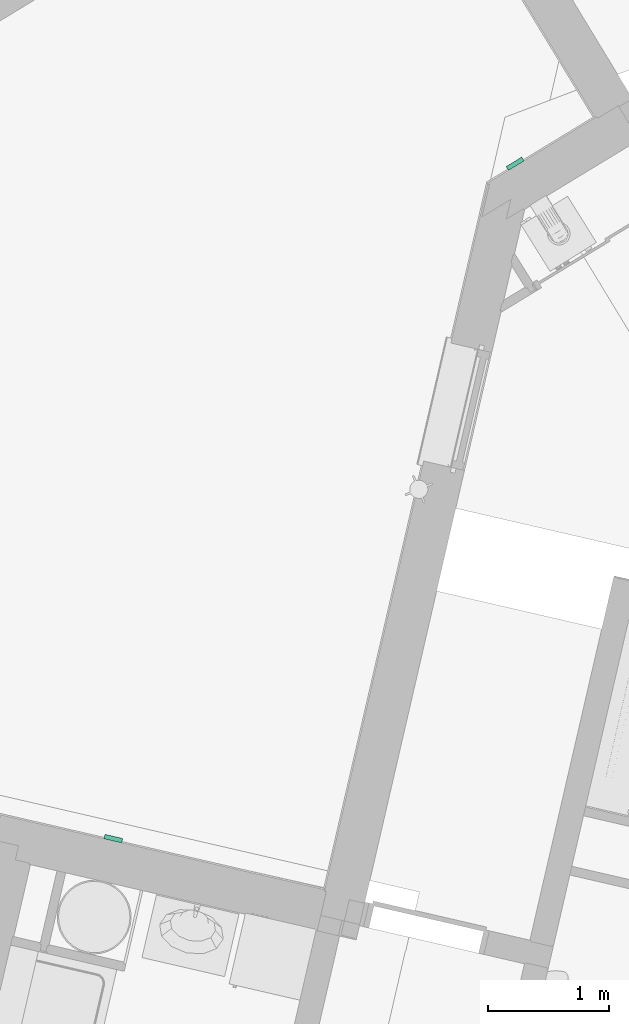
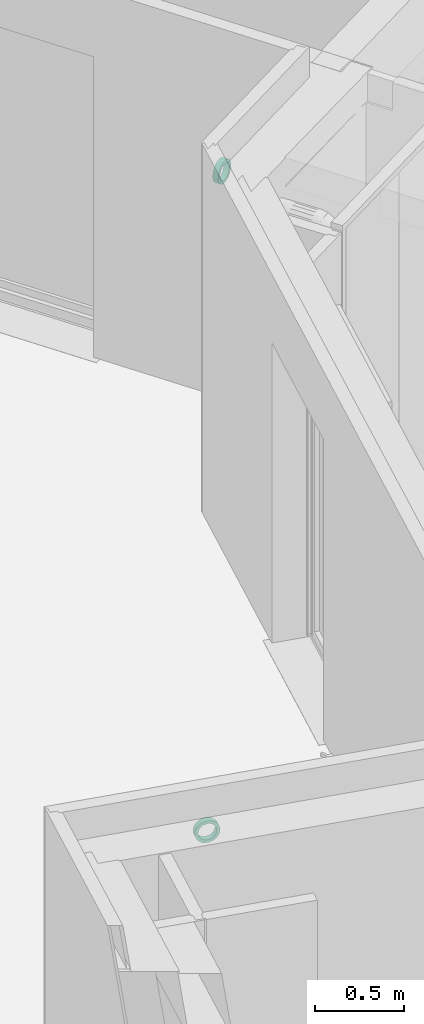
# One storey, part 113 of 119: 2 flow terminals.
"""IFC2X3 building model written with IfcOpenShell, lengths in metres."""

from ifc_helpers import new_model, entity, si_unit, converted_unit, derived_unit, money_unit, direction, frame, origin_with_axes, place, context, subcontext, project, spatial, faceted_brep, source, transform, mapped, type_object, element, save


model = new_model("IFC2X3")

# Units and contexts
model_context = context("Model", 3, precision=1e-05, world=origin_with_axes(), true_north=direction((0.0, 1.0)))
body_context = subcontext(model_context, "Body", "Model", "MODEL_VIEW")
ifc_project = project(units=[si_unit("LENGTHUNIT", "METRE"), si_unit("AREAUNIT", "SQUARE_METRE"), si_unit("VOLUMEUNIT", "CUBIC_METRE"), converted_unit("PLANEANGLEUNIT", "DEGREE", entity("IfcPlaneAngleMeasure", 0.0174532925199), si_unit("PLANEANGLEUNIT", "RADIAN"), dimensions=[0, 0, 0, 0, 0, 0, 0]), si_unit("SOLIDANGLEUNIT", "STERADIAN"), money_unit("EUR"), converted_unit("TIMEUNIT", "Year", entity("IfcTimeMeasure", 31556926.0), si_unit("TIMEUNIT", "SECOND"), dimensions=[0, 0, 1, 0, 0, 0, 0]), si_unit("MASSUNIT", "GRAM", prefix="KILO"), si_unit("THERMODYNAMICTEMPERATUREUNIT", "DEGREE_CELSIUS"), si_unit("LUMINOUSINTENSITYUNIT", "LUMEN"), si_unit("ENERGYUNIT", "JOULE", prefix="MEGA"), derived_unit("THERMALCONDUCTANCEUNIT", [(si_unit("POWERUNIT", "WATT"), 1), (si_unit("LENGTHUNIT", "METRE"), -1), (si_unit("THERMODYNAMICTEMPERATUREUNIT", "KELVIN"), -1)]), derived_unit("SPECIFICHEATCAPACITYUNIT", [(si_unit("ENERGYUNIT", "JOULE"), 1), (si_unit("MASSUNIT", "GRAM", prefix="KILO"), -1), (si_unit("THERMODYNAMICTEMPERATUREUNIT", "KELVIN"), -1)]), derived_unit("MASSDENSITYUNIT", [(si_unit("MASSUNIT", "GRAM", prefix="KILO"), 1), (si_unit("VOLUMEUNIT", "CUBIC_METRE"), -1)])], contexts=[model_context])

# Site, building, storey
site_placement = place(None, origin_with_axes())
site = spatial("IfcSite", under=ifc_project, at=site_placement, Name="Site", CompositionType="ELEMENT")
building_placement = place(site_placement, origin_with_axes())
building = spatial("IfcBuilding", under=site, at=building_placement, Name="Bâtiment", CompositionType="ELEMENT")
storey_placement = place(building_placement, origin_with_axes())
storey = spatial("IfcBuildingStorey", under=building, at=storey_placement, Name="Rez-de-chaussée", CompositionType="ELEMENT", Elevation=0.0)

# Flow terminals
space_heater_type = type_object("IfcSpaceHeaterType", Name="Tube évidé 23", PredefinedType="USERDEFINED")
shared_shape = source(origin_with_axes(), body_context, "Body", "Brep", [
    faceted_brep([(0.0, 0.0, -0.075), (0.0, 0.0194114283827, -0.0724444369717), (0.0, 0.0375, -0.0649519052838), (0.0, 0.053033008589, -0.053033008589), (0.0, 0.0649519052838, -0.0375), (0.0, 0.0724444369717, -0.0194114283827), (0.0, 0.075, 0.0), (0.0, 0.0724444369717, 0.0194114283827), (0.0, 0.0649519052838, 0.0375), (0.0, 0.053033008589, 0.053033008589), (0.0, 0.0375, 0.0649519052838), (0.0, 0.0194114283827, 0.0724444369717), (0.0, 0.0, 0.075), (0.0, -0.0194114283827, 0.0724444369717), (0.0, -0.0375, 0.0649519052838), (0.0, -0.053033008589, 0.053033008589), (0.0, -0.0649519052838, 0.0375), (0.0, -0.0724444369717, 0.0194114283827), (0.0, -0.075, 0.0), (0.0, -0.0724444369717, -0.0194114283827), (0.0, -0.0649519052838, -0.0375), (0.0, -0.053033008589, -0.053033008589), (0.0, -0.0375, -0.0649519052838), (0.0, -0.0194114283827, -0.0724444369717), (0.0, -0.0275, -0.0476313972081), (0.0, -0.0388908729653, -0.0388908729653), (0.0, -0.0476313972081, -0.0275), (0.0, -0.0531259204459, -0.0142350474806), (0.0, -0.055, 0.0), (0.0, -0.0531259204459, 0.0142350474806), (0.0, -0.0476313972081, 0.0275), (0.0, -0.0388908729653, 0.0388908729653), (0.0, -0.0275, 0.0476313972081), (0.0, -0.0142350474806, 0.0531259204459), (0.0, 0.0, 0.055), (0.0, 0.0142350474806, 0.0531259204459), (0.0, 0.0275, 0.0476313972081), (0.0, 0.0388908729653, 0.0388908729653), (0.0, 0.0476313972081, 0.0275), (0.0, 0.0531259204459, 0.0142350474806), (0.0, 0.055, 0.0), (0.0, 0.0531259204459, -0.0142350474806), (0.0, 0.0476313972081, -0.0275), (0.0, 0.0388908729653, -0.0388908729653), (0.0, 0.0275, -0.0476313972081), (0.0, 0.0142350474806, -0.0531259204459), (0.0, 0.0, -0.055), (0.0, -0.0142350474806, -0.0531259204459), (-0.0368596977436, 0.0, -0.075), (-0.0368596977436, 0.0194114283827, -0.0724444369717), (-0.0368596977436, 0.0375, -0.0649519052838), (-0.0368596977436, 0.053033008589, -0.053033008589), (-0.0368596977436, 0.0649519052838, -0.0375), (-0.0368596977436, 0.0724444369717, -0.0194114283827), (-0.0368596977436, 0.075, 0.0), (-0.0368596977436, 0.0724444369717, 0.0194114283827), (-0.0368596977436, 0.0649519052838, 0.0375), (-0.0368596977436, 0.053033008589, 0.053033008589), (-0.0368596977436, 0.0375, 0.0649519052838), (-0.0368596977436, 0.0194114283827, 0.0724444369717), (-0.0368596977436, 0.0, 0.075), (-0.0368596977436, -0.0194114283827, 0.0724444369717), (-0.0368596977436, -0.0375, 0.0649519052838), (-0.0368596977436, -0.053033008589, 0.053033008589), (-0.0368596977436, -0.0649519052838, 0.0375), (-0.0368596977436, -0.0724444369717, 0.0194114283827), (-0.0368596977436, -0.075, 0.0), (-0.0368596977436, -0.0724444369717, -0.0194114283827), (-0.0368596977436, -0.0649519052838, -0.0375), (-0.0368596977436, -0.053033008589, -0.053033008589), (-0.0368596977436, -0.0375, -0.0649519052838), (-0.0368596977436, -0.0194114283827, -0.0724444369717), (-0.0368596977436, -0.0388908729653, -0.0388908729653), (-0.0368596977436, -0.0275, -0.0476313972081), (-0.0368596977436, -0.0476313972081, -0.0275), (-0.0368596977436, -0.0531259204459, -0.0142350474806), (-0.0368596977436, -0.055, 0.0), (-0.0368596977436, -0.0531259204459, 0.0142350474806), (-0.0368596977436, -0.0476313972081, 0.0275), (-0.0368596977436, -0.0388908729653, 0.0388908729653), (-0.0368596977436, -0.0275, 0.0476313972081), (-0.0368596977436, -0.0142350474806, 0.0531259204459), (-0.0368596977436, 0.0, 0.055), (-0.0368596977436, 0.0142350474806, 0.0531259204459), (-0.0368596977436, 0.0275, 0.0476313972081), (-0.0368596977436, 0.0388908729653, 0.0388908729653), (-0.0368596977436, 0.0476313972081, 0.0275), (-0.0368596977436, 0.0531259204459, 0.0142350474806), (-0.0368596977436, 0.055, 0.0), (-0.0368596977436, 0.0531259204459, -0.0142350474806), (-0.0368596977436, 0.0476313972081, -0.0275), (-0.0368596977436, 0.0388908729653, -0.0388908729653), (-0.0368596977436, 0.0275, -0.0476313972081), (-0.0368596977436, 0.0142350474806, -0.0531259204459), (-0.0368596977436, 0.0, -0.055), (-0.0368596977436, -0.0142350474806, -0.0531259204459)], [[[0, 1, 2, 3, 4, 5, 6, 7, 8, 9, 10, 11, 12, 13, 14, 15, 16, 17, 18, 19, 20, 21, 22, 23], [24, 25, 26, 27, 28, 29, 30, 31, 32, 33, 34, 35, 36, 37, 38, 39, 40, 41, 42, 43, 44, 45, 46, 47]], [[48, 49, 1, 0]], [[49, 50, 2, 1]], [[50, 51, 3, 2]], [[51, 52, 4, 3]], [[52, 53, 5, 4]], [[53, 54, 6, 5]], [[54, 55, 7, 6]], [[55, 56, 8, 7]], [[56, 57, 9, 8]], [[57, 58, 10, 9]], [[58, 59, 11, 10]], [[59, 60, 12, 11]], [[60, 61, 13, 12]], [[61, 62, 14, 13]], [[62, 63, 15, 14]], [[63, 64, 16, 15]], [[64, 65, 17, 16]], [[65, 66, 18, 17]], [[66, 67, 19, 18]], [[67, 68, 20, 19]], [[68, 69, 21, 20]], [[69, 70, 22, 21]], [[70, 71, 23, 22]], [[71, 48, 0, 23]], [[72, 25, 24, 73]], [[74, 26, 25, 72]], [[75, 27, 26, 74]], [[76, 28, 27, 75]], [[77, 29, 28, 76]], [[78, 30, 29, 77]], [[79, 31, 30, 78]], [[80, 32, 31, 79]], [[81, 33, 32, 80]], [[82, 34, 33, 81]], [[83, 35, 34, 82]], [[84, 36, 35, 83]], [[85, 37, 36, 84]], [[86, 38, 37, 85]], [[87, 39, 38, 86]], [[88, 40, 39, 87]], [[89, 41, 40, 88]], [[90, 42, 41, 89]], [[91, 43, 42, 90]], [[92, 44, 43, 91]], [[93, 45, 44, 92]], [[94, 46, 45, 93]], [[95, 47, 46, 94]], [[73, 24, 47, 95]], [[70, 69, 68, 67, 66, 65, 64, 63, 62, 61, 60, 59, 58, 57, 56, 55, 54, 53, 52, 51, 50, 49, 48, 71], [92, 91, 90, 89, 88, 87, 86, 85, 84, 83, 82, 81, 80, 79, 78, 77, 76, 75, 74, 72, 73, 95, 94, 93]]]),
])
for number, where, z_axis, x_axis, name in (
    (1, (-9.94778968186, 12.2079923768, 2.35), (0.0, 0.0, 1.0), (-0.224876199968, -0.974387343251, 0.0), "MOB-003"),
    (2, (-6.61683110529, 17.7826508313, 2.35), (0.0, 0.0, 1.0), (0.519386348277, -0.854539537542, 0.0), "MOB-003"),
):
    element("IfcFlowTerminal", number, at=place(storey_placement, frame(where, z_axis=z_axis, x_axis=x_axis)), inside=storey, type_object=space_heater_type, Name=name, ObjectType="GAS_TERMINAL", context=body_context, shape_type="MappedRepresentation", body=[
        mapped(shared_shape, transform((0.0, 0.0, 0.0))),
    ])

save(model, "model.ifc")
